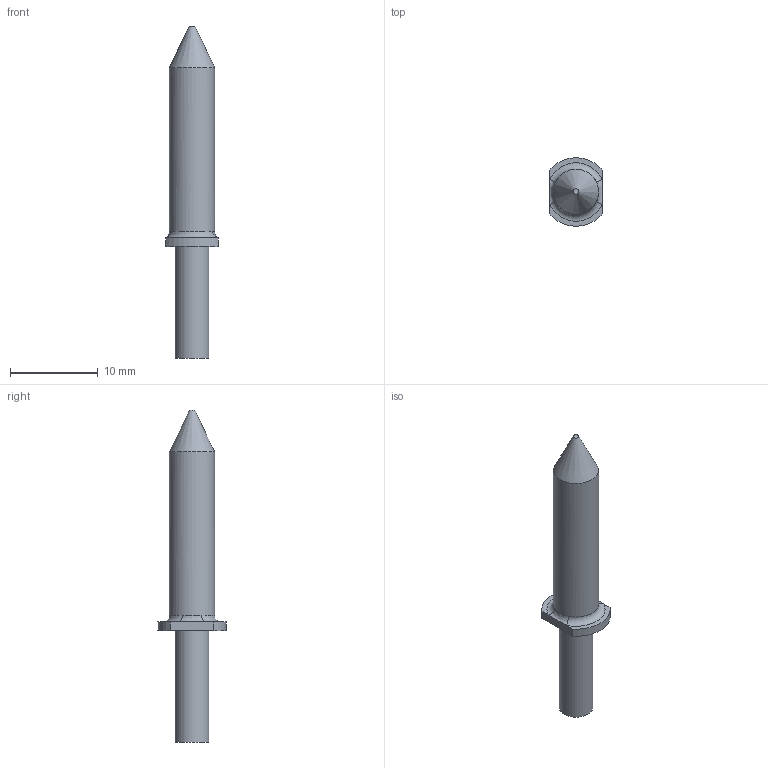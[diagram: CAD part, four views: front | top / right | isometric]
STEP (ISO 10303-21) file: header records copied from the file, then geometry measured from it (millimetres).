
FILE_DESCRIPTION(/* description */ (''),/* implementation_level */ '2;1');
FILE_NAME(/* name */ 'HSHM-GUIDE-PIN-4_STEP.stp',/* time_stamp */ '2010-09-09T13:58:55-05:00',/* author */ (''),/* organization */ (''),/* preprocessor_version */ 'ST-DEVELOPER v11',/* originating_system */ 'UGS - NX 5.0',/* authorisation */ '');
FILE_SCHEMA (('CONFIG_CONTROL_DESIGN'));
Length unit declared in the file: millimetre
Products named in the file (1): 78-5110-5656-2
Bounding box: 6 x 7.78 x 37.85 mm (x, y, z)
Volume: 632.3 mm3; surface area: 596.6 mm2
Topology: 1 solids, 1 shells, 16 faces, 36 edges, 23 vertices
Faces by surface type: plane 7, cylinder 4, torus 2, bspline 2, cone 1
Full cylindrical faces by diameter (mm): 3.838 x1, 5.15 x1
Entity records: 536 total; most frequent: CARTESIAN_POINT 119, DIRECTION 74, ORIENTED_EDGE 60, AXIS2_PLACEMENT_3D 31, EDGE_CURVE 30, EDGE_LOOP 20, VERTEX_POINT 20, ADVANCED_FACE 16
